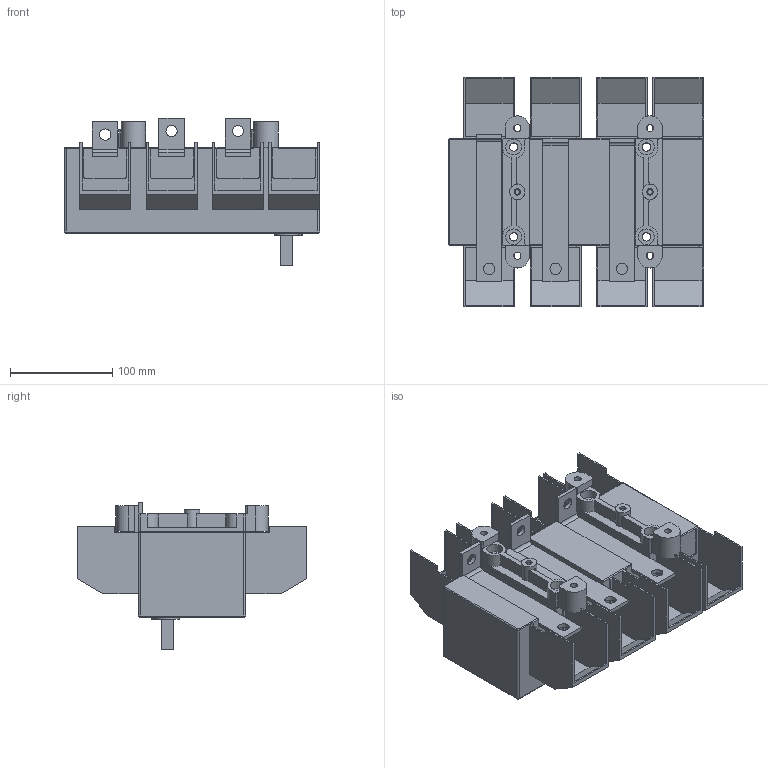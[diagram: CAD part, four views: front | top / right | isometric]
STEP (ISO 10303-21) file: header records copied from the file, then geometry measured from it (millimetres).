
FILE_DESCRIPTION(/* description */ (''),/* implementation_level */ '2;1');
FILE_NAME(/* name */ 'RA400 P3 B z oslona zaciskow.stp',/* time_stamp */ '2021-08-18T14:21:44+02:00',/* author */ (''),/* organization */ (''),/* preprocessor_version */ 'ST-DEVELOPER v18.1',/* originating_system */ 'SIEMENS PLM Software NX 1965',/* authorisation */ '');
FILE_SCHEMA (('AUTOMOTIVE_DESIGN { 1 0 10303 214 3 1 1 1 }'));
Length unit declared in the file: millimetre
Products named in the file (1): RA400 P3 B z oslona zaciskow_stp
Bounding box: 250 x 225 x 144.39 mm (x, y, z)
Volume: 2394937.7 mm3; surface area: 330252.6 mm2
Topology: 1 solids, 1 shells, 420 faces, 1154 edges, 756 vertices
Faces by surface type: plane 306, cylinder 106, torus 5, bspline 3
Full cylindrical faces by diameter (mm): 4.8 x2, 6.2 x2, 7 x4, 8.2 x4, 11 x6, 14 x4, 15 x2, 15.5 x4
Entity records: 13187 total; most frequent: CARTESIAN_POINT 2362, ORIENTED_EDGE 2244, DIRECTION 2190, EDGE_CURVE 1122, LINE 886, VECTOR 886, VERTEX_POINT 752, AXIS2_PLACEMENT_3D 652
